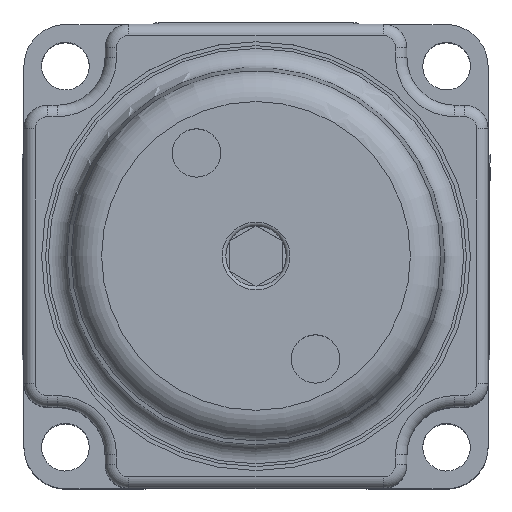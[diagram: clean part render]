
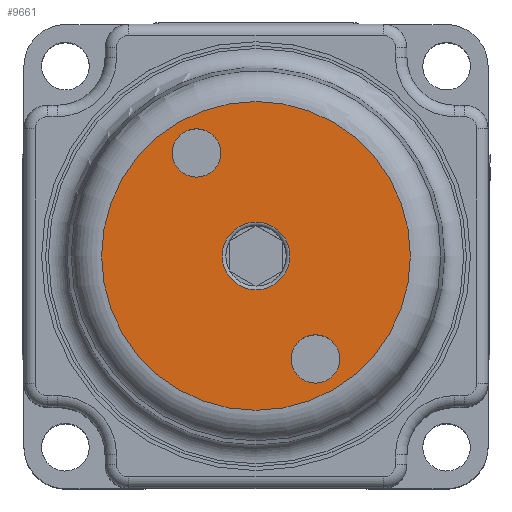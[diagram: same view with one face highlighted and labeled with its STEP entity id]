
A CAD part, top view. The second image highlights one B-rep face of the part: STEP entity #9661.
In plain terms, the highlighted planar face has unit normal (0, 0, 1).
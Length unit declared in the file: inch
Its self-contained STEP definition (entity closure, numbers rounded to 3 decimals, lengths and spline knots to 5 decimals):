
#102=FACE_BOUND('',#1385,.T.);
#103=FACE_BOUND('',#1386,.T.);
#104=FACE_BOUND('',#1387,.T.);
#794=FACE_OUTER_BOUND('',#1384,.T.);
#1384=EDGE_LOOP('',(#7539,#7540));
#1385=EDGE_LOOP('',(#7541,#7542));
#1386=EDGE_LOOP('',(#7543,#7544));
#1387=EDGE_LOOP('',(#7545,#7546));
#3286=CIRCLE('',#10711,0.089);
#3291=CIRCLE('',#10716,0.089);
#3298=CIRCLE('',#10725,0.4051);
#3299=CIRCLE('',#10726,0.4051);
#3300=CIRCLE('',#10727,0.0635);
#3301=CIRCLE('',#10728,0.0635);
#3302=CIRCLE('',#10729,0.0635);
#3303=CIRCLE('',#10730,0.0635);
#4083=VERTEX_POINT('',#16202);
#4084=VERTEX_POINT('',#16203);
#4090=VERTEX_POINT('',#16224);
#4091=VERTEX_POINT('',#16225);
#4092=VERTEX_POINT('',#16228);
#4093=VERTEX_POINT('',#16229);
#4094=VERTEX_POINT('',#16232);
#4095=VERTEX_POINT('',#16233);
#5284=EDGE_CURVE('',#4083,#4084,#3286,.T.);
#5289=EDGE_CURVE('',#4084,#4083,#3291,.T.);
#5297=EDGE_CURVE('',#4090,#4091,#3298,.T.);
#5298=EDGE_CURVE('',#4091,#4090,#3299,.T.);
#5299=EDGE_CURVE('',#4092,#4093,#3300,.T.);
#5300=EDGE_CURVE('',#4093,#4092,#3301,.T.);
#5301=EDGE_CURVE('',#4094,#4095,#3302,.T.);
#5302=EDGE_CURVE('',#4095,#4094,#3303,.T.);
#7539=ORIENTED_EDGE('',*,*,#5297,.T.);
#7540=ORIENTED_EDGE('',*,*,#5298,.T.);
#7541=ORIENTED_EDGE('',*,*,#5299,.T.);
#7542=ORIENTED_EDGE('',*,*,#5300,.T.);
#7543=ORIENTED_EDGE('',*,*,#5301,.T.);
#7544=ORIENTED_EDGE('',*,*,#5302,.T.);
#7545=ORIENTED_EDGE('',*,*,#5284,.F.);
#7546=ORIENTED_EDGE('',*,*,#5289,.F.);
#8706=PLANE('',#10724);
#9661=ADVANCED_FACE('',(#794,#102,#103,#104),#8706,.T.);
#10711=AXIS2_PLACEMENT_3D('',#16204,#13166,#13167);
#10716=AXIS2_PLACEMENT_3D('',#16212,#13176,#13177);
#10724=AXIS2_PLACEMENT_3D('',#16223,#13193,#13194);
#10725=AXIS2_PLACEMENT_3D('',#16226,#13195,#13196);
#10726=AXIS2_PLACEMENT_3D('',#16227,#13197,#13198);
#10727=AXIS2_PLACEMENT_3D('',#16230,#13199,#13200);
#10728=AXIS2_PLACEMENT_3D('',#16231,#13201,#13202);
#10729=AXIS2_PLACEMENT_3D('',#16234,#13203,#13204);
#10730=AXIS2_PLACEMENT_3D('',#16235,#13205,#13206);
#13166=DIRECTION('center_axis',(0.,0.,1.));
#13167=DIRECTION('ref_axis',(0.5,-0.866,0.));
#13176=DIRECTION('center_axis',(0.,0.,1.));
#13177=DIRECTION('ref_axis',(0.5,-0.866,0.));
#13193=DIRECTION('center_axis',(0.,0.,1.));
#13194=DIRECTION('ref_axis',(1.,0.,0.));
#13195=DIRECTION('center_axis',(0.,0.,
1.));
#13196=DIRECTION('ref_axis',(-0.5,0.866,0.));
#13197=DIRECTION('center_axis',(0.,0.,
1.));
#13198=DIRECTION('ref_axis',(-0.5,0.866,0.));
#13199=DIRECTION('center_axis',(0.,0.,-1.));
#13200=DIRECTION('ref_axis',(0.414,0.91,0.));
#13201=DIRECTION('center_axis',(0.,0.,-1.));
#13202=DIRECTION('ref_axis',(0.414,0.91,0.));
#13203=DIRECTION('center_axis',(0.,0.,
-1.));
#13204=DIRECTION('ref_axis',(0.414,0.91,0.));
#13205=DIRECTION('center_axis',(0.,0.,
-1.));
#13206=DIRECTION('ref_axis',(0.414,0.91,0.));
#16202=CARTESIAN_POINT('',(-0.12175,0.18652,0.96745));
#16203=CARTESIAN_POINT('',(-0.10983,0.14202,0.96745));
#16204=CARTESIAN_POINT('Origin',(-0.19883,0.14202,0.96745));
#16212=CARTESIAN_POINT('Origin',(-0.19883,0.14202,0.96745));
#16223=CARTESIAN_POINT('Origin',(-0.55,-0.06073,
0.96745));
#16224=CARTESIAN_POINT('',(0.152,0.34457,0.96745));
#16225=CARTESIAN_POINT('',(-0.60393,0.14202,0.96745));
#16226=CARTESIAN_POINT('Origin',(-0.19883,0.14202,0.96745));
#16227=CARTESIAN_POINT('Origin',(-0.19883,0.14202,0.96745));
#16228=CARTESIAN_POINT('',(-0.29983,0.44397,0.96745));
#16229=CARTESIAN_POINT('',(-0.40982,0.38047,0.96745));
#16230=CARTESIAN_POINT('Origin',(-0.35483,0.41222,0.96745));
#16231=CARTESIAN_POINT('Origin',(-0.35483,0.41222,0.96745));
#16232=CARTESIAN_POINT('',(0.01217,-0.09643,0.96745));
#16233=CARTESIAN_POINT('',(-0.09782,-0.15993,0.96745));
#16234=CARTESIAN_POINT('Origin',(-0.04283,-0.12818,0.96745));
#16235=CARTESIAN_POINT('Origin',(-0.04283,-0.12818,0.96745));
